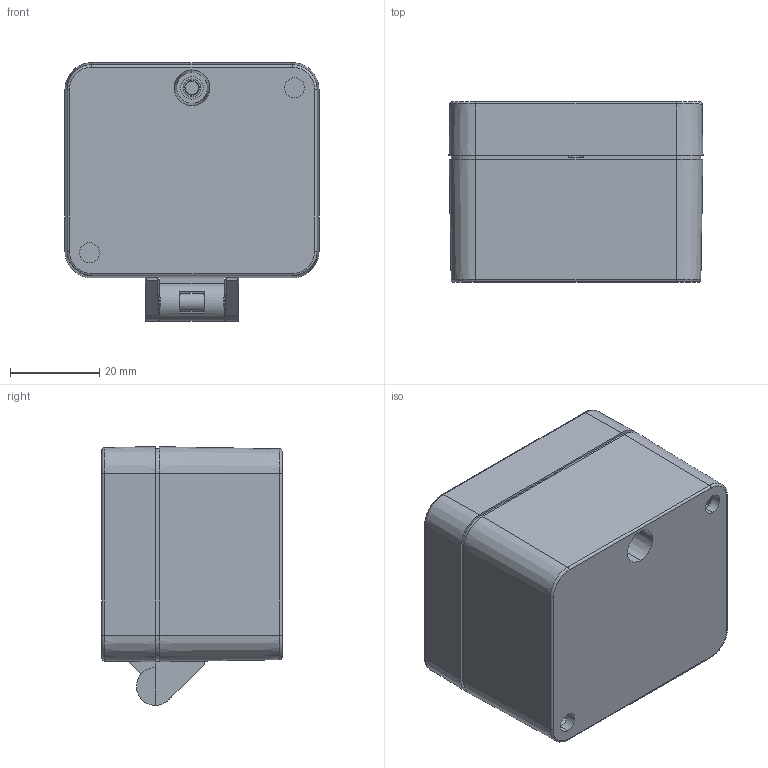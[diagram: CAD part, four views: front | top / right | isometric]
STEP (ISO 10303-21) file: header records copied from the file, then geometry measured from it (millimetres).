
FILE_DESCRIPTION (( 'STEP AP203' ), '1' );
FILE_NAME ('SH-203-0-0.STEP', '2021-01-07T08:13:53', ( '' ), ( '' ), 'SwSTEP 2.0', 'SolidWorks 2020', '' );
FILE_SCHEMA (( 'CONFIG_CONTROL_DESIGN' ));
Length unit declared in the file: millimetre
Products named in the file (5): A-650-0-0-P-0-11295; SH-203-0-0; SH-203-P-1; A-648-0-0-M-0-11201; SH-203-P-2
Assembly tree (4 placements, depth 2):
  SH-203-0-0
    SH-203-P-1
    SH-203-P-2
    A-648-0-0-M-0-11201
    A-650-0-0-P-0-11295
Bounding box: 57 x 40.4 x 58.05 mm (x, y, z)
Volume: 38295.5 mm3; surface area: 32102.1 mm2
Topology: 4 solids, 4 shells, 496 faces, 1345 edges, 880 vertices
Faces by surface type: plane 189, cylinder 121, cone 116, bspline 60, torus 10
Entity records: 18066 total; most frequent: CARTESIAN_POINT 5436, ORIENTED_EDGE 2690, DIRECTION 2392, EDGE_CURVE 1345, VERTEX_POINT 880, AXIS2_PLACEMENT_3D 841, LINE 710, VECTOR 710
